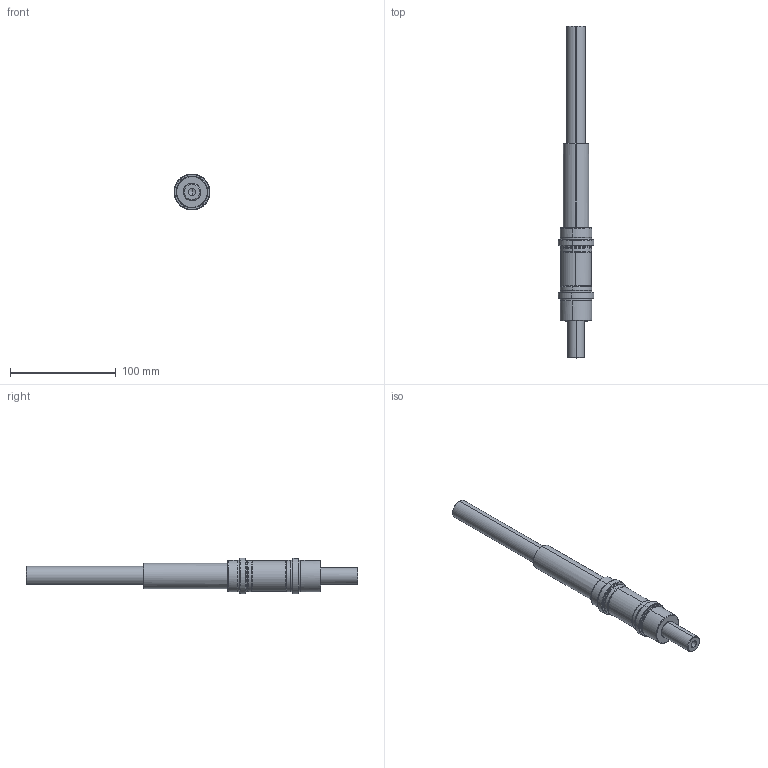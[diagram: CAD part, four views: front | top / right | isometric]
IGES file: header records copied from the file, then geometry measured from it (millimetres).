
Start section: START RECORD GO HERE.
Global section: file name: dx163027.igs; native system: DASSAULT SYSTEMES CATIA V5 R20 - www.3ds.com; preprocessor: CATIA Version 5 Release 20 ; author: Utente; organization: NB04-ASUS; date: 20201103.205259; units: millimetre
Bounding box: 33.98 x 314 x 33.99 mm (x, y, z)
Surface area: 58223.1 mm2 (no closed solid volume)
Topology: 0 solids, 0 shells, 444 faces, 2046 edges, 2036 vertices
Faces by surface type: revolution 286, bspline 96, plane 62
